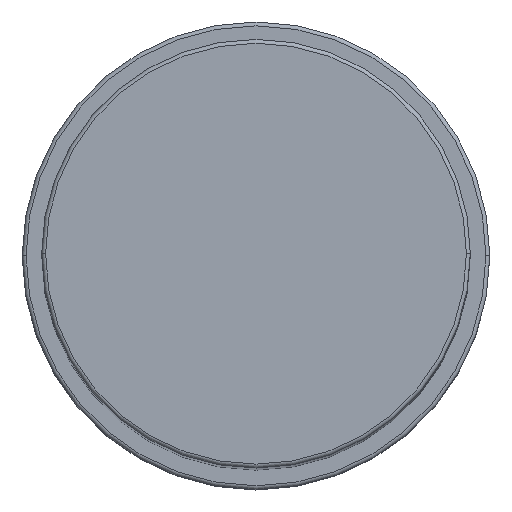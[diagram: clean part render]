
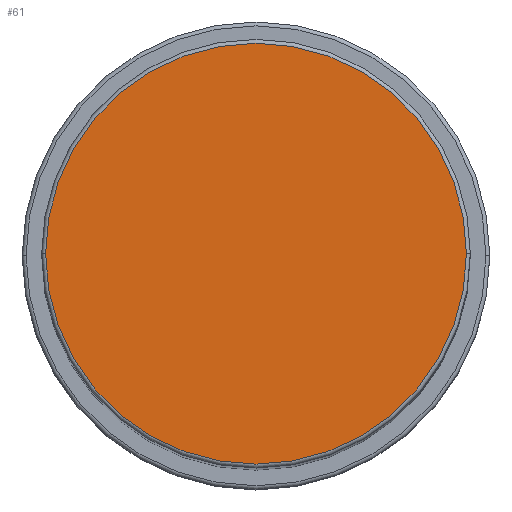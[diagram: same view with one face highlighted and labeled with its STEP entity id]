
A CAD part, top view. The second image highlights one B-rep face of the part: STEP entity #61.
In plain terms, the highlighted planar face has unit normal (0, 0, 1).
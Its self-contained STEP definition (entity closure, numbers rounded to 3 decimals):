
#11 = CARTESIAN_POINT ( 'NONE',  ( 0., 0., 168. ) ) ;
#61 = ADVANCED_FACE ( 'NONE', ( #753 ), #1852, .T. ) ;
#122 = DIRECTION ( 'NONE',  ( 1., 0., 0. ) ) ;
#471 = AXIS2_PLACEMENT_3D ( 'NONE', #1526, #1664, #122 ) ;
#518 = VERTEX_POINT ( 'NONE', #981 ) ;
#753 = FACE_OUTER_BOUND ( 'NONE', #1230, .T. ) ;
#792 = DIRECTION ( 'NONE',  ( 0., 0., 1. ) ) ;
#821 = AXIS2_PLACEMENT_3D ( 'NONE', #11, #792, #1881 ) ;
#932 = CARTESIAN_POINT ( 'NONE',  ( 27., 0., 168. ) ) ;
#939 = EDGE_CURVE ( 'NONE', #518, #1122, #1201, .T. ) ;
#981 = CARTESIAN_POINT ( 'NONE',  ( -27., 0., 168. ) ) ;
#987 = AXIS2_PLACEMENT_3D ( 'NONE', #1185, #1941, #1340 ) ;
#1008 = ORIENTED_EDGE ( 'NONE', *, *, #1018, .T. ) ;
#1018 = EDGE_CURVE ( 'NONE', #1122, #518, #1639, .T. ) ;
#1122 = VERTEX_POINT ( 'NONE', #932 ) ;
#1185 = CARTESIAN_POINT ( 'NONE',  ( 0., 0., 168. ) ) ;
#1201 = CIRCLE ( 'NONE', #987, 27. ) ;
#1230 = EDGE_LOOP ( 'NONE', ( #1008, #1431 ) ) ;
#1340 = DIRECTION ( 'NONE',  ( 1., 0., 0. ) ) ;
#1431 = ORIENTED_EDGE ( 'NONE', *, *, #939, .T. ) ;
#1526 = CARTESIAN_POINT ( 'NONE',  ( 0., 0., 168. ) ) ;
#1639 = CIRCLE ( 'NONE', #821, 27. ) ;
#1664 = DIRECTION ( 'NONE',  ( 0., 0., 1. ) ) ;
#1852 = PLANE ( 'NONE',  #471 ) ;
#1881 = DIRECTION ( 'NONE',  ( 1., 0., 0. ) ) ;
#1941 = DIRECTION ( 'NONE',  ( 0., 0., 1. ) ) ;
